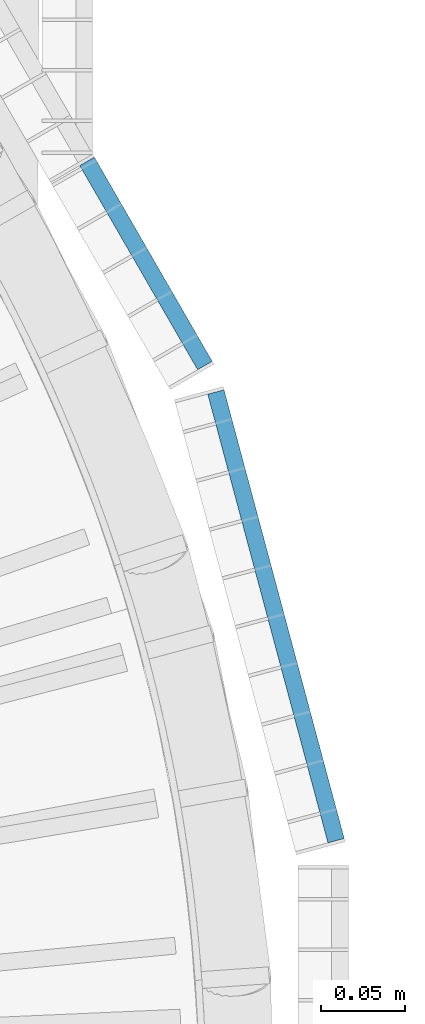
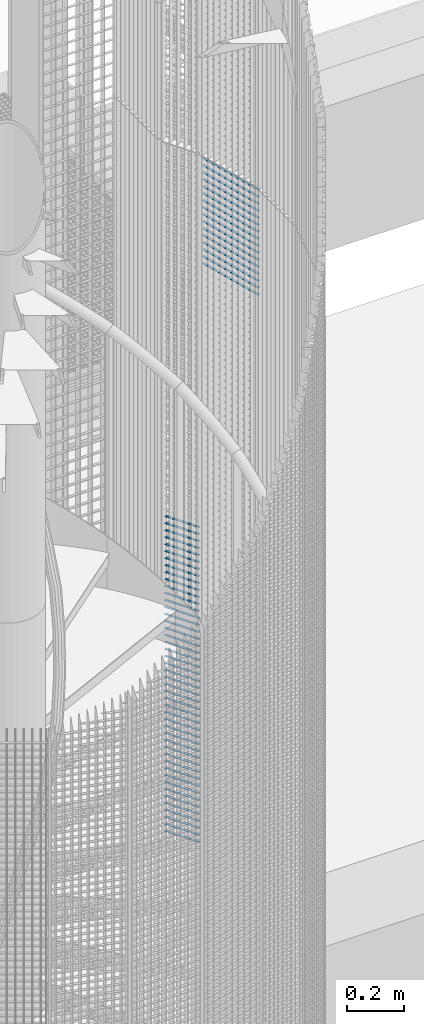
# One storey, part 281 of 1183: 62 beams, 2 elements without a shape of their own.
"""IFC2X3 building model written with IfcOpenShell, lengths in millimetres."""

from ifc_helpers import new_model, si_unit, frame, origin_with_axes, origin_2d_with_axis, place, context, subcontext, project, spatial, rectangle, extrude, material, type_object, element, aggregate, save


model = new_model("IFC2X3")

# Units and contexts
model_context = context("Model", 3, precision=1e-05, world=origin_with_axes())
body_context = subcontext(model_context, "Body", "Model", "MODEL_VIEW")
ifc_project = project(units=[si_unit("LENGTHUNIT", "METRE", prefix="MILLI"), si_unit("AREAUNIT", "SQUARE_METRE"), si_unit("VOLUMEUNIT", "CUBIC_METRE"), si_unit("MASSUNIT", "GRAM", prefix="KILO"), si_unit("TIMEUNIT", "SECOND"), si_unit("PLANEANGLEUNIT", "RADIAN"), si_unit("SOLIDANGLEUNIT", "STERADIAN"), si_unit("THERMODYNAMICTEMPERATUREUNIT", "DEGREE_CELSIUS"), si_unit("LUMINOUSINTENSITYUNIT", "LUMEN")], contexts=[model_context])

# Site, building, storey
site_placement = place(None, origin_with_axes())
site = spatial("IfcSite", under=ifc_project, at=site_placement, Name="Undefined", CompositionType="ELEMENT")
building_placement = place(site_placement, origin_with_axes())
building = spatial("IfcBuilding", under=site, at=building_placement, Name="Undefined", CompositionType="ELEMENT")
storey_placement = place(building_placement, origin_with_axes())
storey = spatial("IfcBuildingStorey", under=building, at=storey_placement, Name="Undefined", CompositionType="ELEMENT", Elevation=0.0)

# Assembly, beams
assembly_1_placement = place(storey_placement, origin_with_axes())
assembly_1 = element("IfcElementAssembly", 1, at=assembly_1_placement, inside=storey, Name="BORDURE", AssemblyPlace="NOTDEFINED", PredefinedType="NOTDEFINED")
ifc_material = material(Name="STEEL/S235JR")
beam_type = type_object("IfcBeamType", Name="PL2*10", PredefinedType="NOTDEFINED")
beam_1_placement = place(assembly_1_placement, frame((1033.29994283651, 437.231999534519, 13380.0), z_axis=(0.866030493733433, 0.499991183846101, 0.0), x_axis=(-0.499991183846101, 0.866030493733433, 0.0)))
beam_1 = element("IfcBeam", 2, at=beam_1_placement, type_object=beam_type, material=ifc_material, Name="ENTRETOISE", context=body_context, shape_type="SweptSolid", body=[
    extrude(rectangle(XDim=2.0, YDim=10.0, at=origin_2d_with_axis()), frame((140.102470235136, 0.0, 0.0), z_axis=(-1.0, 0.0, 0.0), x_axis=(0.0, -1.0, 0.0)), (0.0, 0.0, 1.0), 140.1),
])
beam_2_placement = place(assembly_1_placement, frame((1033.29994283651, 437.231999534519, 13350.0), z_axis=(0.866030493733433, 0.499991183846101, 0.0), x_axis=(-0.499991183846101, 0.866030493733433, 0.0)))
beam_2 = element("IfcBeam", 3, at=beam_2_placement, type_object=beam_type, material=ifc_material, Name="ENTRETOISE", context=body_context, shape_type="SweptSolid", body=[
    extrude(rectangle(XDim=2.0, YDim=10.0, at=origin_2d_with_axis()), frame((140.102470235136, 0.0, 0.0), z_axis=(-1.0, 0.0, 0.0), x_axis=(0.0, -1.0, 0.0)), (0.0, 0.0, 1.0), 140.1),
])
beam_3_placement = place(assembly_1_placement, frame((1033.29994283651, 437.231999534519, 13320.0), z_axis=(0.866030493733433, 0.499991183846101, 0.0), x_axis=(-0.499991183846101, 0.866030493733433, 0.0)))
beam_3 = element("IfcBeam", 4, at=beam_3_placement, type_object=beam_type, material=ifc_material, Name="ENTRETOISE", context=body_context, shape_type="SweptSolid", body=[
    extrude(rectangle(XDim=2.0, YDim=10.0, at=origin_2d_with_axis()), frame((140.102470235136, 0.0, 0.0), z_axis=(-1.0, 0.0, 0.0), x_axis=(0.0, -1.0, 0.0)), (0.0, 0.0, 1.0), 140.1),
])
beam_4_placement = place(assembly_1_placement, frame((1033.29994283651, 437.231999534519, 13290.0), z_axis=(0.866030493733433, 0.499991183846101, 0.0), x_axis=(-0.499991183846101, 0.866030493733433, 0.0)))
beam_4 = element("IfcBeam", 5, at=beam_4_placement, type_object=beam_type, material=ifc_material, Name="ENTRETOISE", context=body_context, shape_type="SweptSolid", body=[
    extrude(rectangle(XDim=2.0, YDim=10.0, at=origin_2d_with_axis()), frame((140.102470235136, 0.0, 0.0), z_axis=(-1.0, 0.0, 0.0), x_axis=(0.0, -1.0, 0.0)), (0.0, 0.0, 1.0), 140.1),
])
beam_5_placement = place(assembly_1_placement, frame((1033.29994283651, 437.231999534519, 13260.0), z_axis=(0.866030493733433, 0.499991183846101, 0.0), x_axis=(-0.499991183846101, 0.866030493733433, 0.0)))
beam_5 = element("IfcBeam", 6, at=beam_5_placement, type_object=beam_type, material=ifc_material, Name="ENTRETOISE", context=body_context, shape_type="SweptSolid", body=[
    extrude(rectangle(XDim=2.0, YDim=10.0, at=origin_2d_with_axis()), frame((140.102470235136, 0.0, 0.0), z_axis=(-1.0, 0.0, 0.0), x_axis=(0.0, -1.0, 0.0)), (0.0, 0.0, 1.0), 140.1),
])
beam_6_placement = place(assembly_1_placement, frame((1033.29994283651, 437.231999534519, 13230.0), z_axis=(0.866030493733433, 0.499991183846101, 0.0), x_axis=(-0.499991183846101, 0.866030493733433, 0.0)))
beam_6 = element("IfcBeam", 7, at=beam_6_placement, type_object=beam_type, material=ifc_material, Name="ENTRETOISE", context=body_context, shape_type="SweptSolid", body=[
    extrude(rectangle(XDim=2.0, YDim=10.0, at=origin_2d_with_axis()), frame((140.102470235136, 0.0, 0.0), z_axis=(-1.0, 0.0, 0.0), x_axis=(0.0, -1.0, 0.0)), (0.0, 0.0, 1.0), 140.1),
])
beam_7_placement = place(assembly_1_placement, frame((1033.29994283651, 437.231999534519, 13200.0), z_axis=(0.866030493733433, 0.499991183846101, 0.0), x_axis=(-0.499991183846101, 0.866030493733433, 0.0)))
beam_7 = element("IfcBeam", 8, at=beam_7_placement, type_object=beam_type, material=ifc_material, Name="ENTRETOISE", context=body_context, shape_type="SweptSolid", body=[
    extrude(rectangle(XDim=2.0, YDim=10.0, at=origin_2d_with_axis()), frame((140.102470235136, 0.0, 0.0), z_axis=(-1.0, 0.0, 0.0), x_axis=(0.0, -1.0, 0.0)), (0.0, 0.0, 1.0), 140.1),
])
beam_8_placement = place(assembly_1_placement, frame((1033.29994283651, 437.23199953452, 13170.0), z_axis=(0.866030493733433, 0.499991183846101, 0.0), x_axis=(-0.499991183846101, 0.866030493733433, 0.0)))
beam_8 = element("IfcBeam", 9, at=beam_8_placement, type_object=beam_type, material=ifc_material, Name="ENTRETOISE", context=body_context, shape_type="SweptSolid", body=[
    extrude(rectangle(XDim=2.0, YDim=10.0, at=origin_2d_with_axis()), frame((140.102470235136, 0.0, 0.0), z_axis=(-1.0, 0.0, 0.0), x_axis=(0.0, -1.0, 0.0)), (0.0, 0.0, 1.0), 140.1),
])
beam_9_placement = place(assembly_1_placement, frame((1033.29994283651, 437.23199953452, 13140.0), z_axis=(0.866030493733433, 0.499991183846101, 0.0), x_axis=(-0.499991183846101, 0.866030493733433, 0.0)))
beam_9 = element("IfcBeam", 10, at=beam_9_placement, type_object=beam_type, material=ifc_material, Name="ENTRETOISE", context=body_context, shape_type="SweptSolid", body=[
    extrude(rectangle(XDim=2.0, YDim=10.0, at=origin_2d_with_axis()), frame((140.102470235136, 0.0, 0.0), z_axis=(-1.0, 0.0, 0.0), x_axis=(0.0, -1.0, 0.0)), (0.0, 0.0, 1.0), 140.1),
])
beam_10_placement = place(assembly_1_placement, frame((1033.29994283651, 437.231999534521, 12720.0), z_axis=(0.866030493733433, 0.499991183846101, 0.0), x_axis=(-0.499991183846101, 0.866030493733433, 0.0)))
beam_10 = element("IfcBeam", 11, at=beam_10_placement, type_object=beam_type, material=ifc_material, Name="ENTRETOISE", context=body_context, shape_type="SweptSolid", body=[
    extrude(rectangle(XDim=2.0, YDim=10.0, at=origin_2d_with_axis()), frame((140.102470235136, 0.0, 0.0), z_axis=(-1.0, 0.0, 0.0), x_axis=(0.0, -1.0, 0.0)), (0.0, 0.0, 1.0), 140.1),
])
beam_11_placement = place(assembly_1_placement, frame((1033.29994283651, 437.231999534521, 12690.0), z_axis=(0.866030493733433, 0.499991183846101, 0.0), x_axis=(-0.499991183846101, 0.866030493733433, 0.0)))
beam_11 = element("IfcBeam", 12, at=beam_11_placement, type_object=beam_type, material=ifc_material, Name="ENTRETOISE", context=body_context, shape_type="SweptSolid", body=[
    extrude(rectangle(XDim=2.0, YDim=10.0, at=origin_2d_with_axis()), frame((140.102470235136, 0.0, 0.0), z_axis=(-1.0, 0.0, 0.0), x_axis=(0.0, -1.0, 0.0)), (0.0, 0.0, 1.0), 140.1),
])
beam_12_placement = place(assembly_1_placement, frame((1033.29994283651, 437.231999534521, 12750.0), z_axis=(0.866030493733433, 0.499991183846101, 0.0), x_axis=(-0.499991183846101, 0.866030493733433, 0.0)))
beam_12 = element("IfcBeam", 13, at=beam_12_placement, type_object=beam_type, material=ifc_material, Name="ENTRETOISE", context=body_context, shape_type="SweptSolid", body=[
    extrude(rectangle(XDim=2.0, YDim=10.0, at=origin_2d_with_axis()), frame((140.102470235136, 0.0, 0.0), z_axis=(-1.0, 0.0, 0.0), x_axis=(0.0, -1.0, 0.0)), (0.0, 0.0, 1.0), 140.1),
])
beam_13_placement = place(assembly_1_placement, frame((1033.29994283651, 437.231999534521, 12660.0), z_axis=(0.866030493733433, 0.499991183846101, 0.0), x_axis=(-0.499991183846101, 0.866030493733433, 0.0)))
beam_13 = element("IfcBeam", 14, at=beam_13_placement, type_object=beam_type, material=ifc_material, Name="ENTRETOISE", context=body_context, shape_type="SweptSolid", body=[
    extrude(rectangle(XDim=2.0, YDim=10.0, at=origin_2d_with_axis()), frame((140.102470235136, 0.0, 0.0), z_axis=(-1.0, 0.0, 0.0), x_axis=(0.0, -1.0, 0.0)), (0.0, 0.0, 1.0), 140.1),
])
beam_14_placement = place(assembly_1_placement, frame((1033.29994283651, 437.231999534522, 12630.0), z_axis=(0.866030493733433, 0.499991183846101, 0.0), x_axis=(-0.499991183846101, 0.866030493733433, 0.0)))
beam_14 = element("IfcBeam", 15, at=beam_14_placement, type_object=beam_type, material=ifc_material, Name="ENTRETOISE", context=body_context, shape_type="SweptSolid", body=[
    extrude(rectangle(XDim=2.0, YDim=10.0, at=origin_2d_with_axis()), frame((140.102470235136, 0.0, 0.0), z_axis=(-1.0, 0.0, 0.0), x_axis=(0.0, -1.0, 0.0)), (0.0, 0.0, 1.0), 140.1),
])
beam_15_placement = place(assembly_1_placement, frame((1033.29994283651, 437.231999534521, 12780.0), z_axis=(0.866030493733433, 0.499991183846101, 0.0), x_axis=(-0.499991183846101, 0.866030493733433, 0.0)))
beam_15 = element("IfcBeam", 16, at=beam_15_placement, type_object=beam_type, material=ifc_material, Name="ENTRETOISE", context=body_context, shape_type="SweptSolid", body=[
    extrude(rectangle(XDim=2.0, YDim=10.0, at=origin_2d_with_axis()), frame((140.102470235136, 0.0, 0.0), z_axis=(-1.0, 0.0, 0.0), x_axis=(0.0, -1.0, 0.0)), (0.0, 0.0, 1.0), 140.1),
])
beam_16_placement = place(assembly_1_placement, frame((1033.29994283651, 437.231999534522, 12600.0), z_axis=(0.866030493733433, 0.499991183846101, 0.0), x_axis=(-0.499991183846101, 0.866030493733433, 0.0)))
beam_16 = element("IfcBeam", 17, at=beam_16_placement, type_object=beam_type, material=ifc_material, Name="ENTRETOISE", context=body_context, shape_type="SweptSolid", body=[
    extrude(rectangle(XDim=2.0, YDim=10.0, at=origin_2d_with_axis()), frame((140.102470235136, 0.0, 0.0), z_axis=(-1.0, 0.0, 0.0), x_axis=(0.0, -1.0, 0.0)), (0.0, 0.0, 1.0), 140.1),
])
beam_17_placement = place(assembly_1_placement, frame((1033.29994283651, 437.231999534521, 12810.0), z_axis=(0.866030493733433, 0.499991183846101, 0.0), x_axis=(-0.499991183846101, 0.866030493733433, 0.0)))
beam_17 = element("IfcBeam", 18, at=beam_17_placement, type_object=beam_type, material=ifc_material, Name="ENTRETOISE", context=body_context, shape_type="SweptSolid", body=[
    extrude(rectangle(XDim=2.0, YDim=10.0, at=origin_2d_with_axis()), frame((140.102470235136, 0.0, 0.0), z_axis=(-1.0, 0.0, 0.0), x_axis=(0.0, -1.0, 0.0)), (0.0, 0.0, 1.0), 140.1),
])
beam_18_placement = place(assembly_1_placement, frame((1033.29994283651, 437.231999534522, 12570.0), z_axis=(0.866030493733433, 0.499991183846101, 0.0), x_axis=(-0.499991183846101, 0.866030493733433, 0.0)))
beam_18 = element("IfcBeam", 19, at=beam_18_placement, type_object=beam_type, material=ifc_material, Name="ENTRETOISE", context=body_context, shape_type="SweptSolid", body=[
    extrude(rectangle(XDim=2.0, YDim=10.0, at=origin_2d_with_axis()), frame((140.102470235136, 0.0, 0.0), z_axis=(-1.0, 0.0, 0.0), x_axis=(0.0, -1.0, 0.0)), (0.0, 0.0, 1.0), 140.1),
])
beam_19_placement = place(assembly_1_placement, frame((1033.29994283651, 437.231999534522, 12540.0), z_axis=(0.866030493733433, 0.499991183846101, 0.0), x_axis=(-0.499991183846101, 0.866030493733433, 0.0)))
beam_19 = element("IfcBeam", 20, at=beam_19_placement, type_object=beam_type, material=ifc_material, Name="ENTRETOISE", context=body_context, shape_type="SweptSolid", body=[
    extrude(rectangle(XDim=2.0, YDim=10.0, at=origin_2d_with_axis()), frame((140.102470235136, 0.0, 0.0), z_axis=(-1.0, 0.0, 0.0), x_axis=(0.0, -1.0, 0.0)), (0.0, 0.0, 1.0), 140.1),
])
beam_20_placement = place(assembly_1_placement, frame((1033.29994283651, 437.231999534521, 12840.0), z_axis=(0.866030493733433, 0.499991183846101, 0.0), x_axis=(-0.499991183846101, 0.866030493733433, 0.0)))
beam_20 = element("IfcBeam", 21, at=beam_20_placement, type_object=beam_type, material=ifc_material, Name="ENTRETOISE", context=body_context, shape_type="SweptSolid", body=[
    extrude(rectangle(XDim=2.0, YDim=10.0, at=origin_2d_with_axis()), frame((140.102470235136, 0.0, 0.0), z_axis=(-1.0, 0.0, 0.0), x_axis=(0.0, -1.0, 0.0)), (0.0, 0.0, 1.0), 140.1),
])
beam_21_placement = place(assembly_1_placement, frame((1033.29994283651, 437.231999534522, 12510.0), z_axis=(0.866030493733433, 0.499991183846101, 0.0), x_axis=(-0.499991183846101, 0.866030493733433, 0.0)))
beam_21 = element("IfcBeam", 22, at=beam_21_placement, type_object=beam_type, material=ifc_material, Name="ENTRETOISE", context=body_context, shape_type="SweptSolid", body=[
    extrude(rectangle(XDim=2.0, YDim=10.0, at=origin_2d_with_axis()), frame((140.102470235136, 0.0, 0.0), z_axis=(-1.0, 0.0, 0.0), x_axis=(0.0, -1.0, 0.0)), (0.0, 0.0, 1.0), 140.1),
])
beam_22_placement = place(assembly_1_placement, frame((1033.29994283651, 437.231999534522, 12480.0), z_axis=(0.866030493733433, 0.499991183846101, 0.0), x_axis=(-0.499991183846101, 0.866030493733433, 0.0)))
beam_22 = element("IfcBeam", 23, at=beam_22_placement, type_object=beam_type, material=ifc_material, Name="ENTRETOISE", context=body_context, shape_type="SweptSolid", body=[
    extrude(rectangle(XDim=2.0, YDim=10.0, at=origin_2d_with_axis()), frame((140.102470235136, 0.0, 0.0), z_axis=(-1.0, 0.0, 0.0), x_axis=(0.0, -1.0, 0.0)), (0.0, 0.0, 1.0), 140.1),
])
beam_23_placement = place(assembly_1_placement, frame((1033.29994283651, 437.231999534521, 12870.0), z_axis=(0.866030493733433, 0.499991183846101, 0.0), x_axis=(-0.499991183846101, 0.866030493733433, 0.0)))
beam_23 = element("IfcBeam", 24, at=beam_23_placement, type_object=beam_type, material=ifc_material, Name="ENTRETOISE", context=body_context, shape_type="SweptSolid", body=[
    extrude(rectangle(XDim=2.0, YDim=10.0, at=origin_2d_with_axis()), frame((140.102470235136, 0.0, 0.0), z_axis=(-1.0, 0.0, 0.0), x_axis=(0.0, -1.0, 0.0)), (0.0, 0.0, 1.0), 140.1),
])
beam_24_placement = place(assembly_1_placement, frame((1033.29994283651, 437.231999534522, 12450.0), z_axis=(0.866030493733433, 0.499991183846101, 0.0), x_axis=(-0.499991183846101, 0.866030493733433, 0.0)))
beam_24 = element("IfcBeam", 25, at=beam_24_placement, type_object=beam_type, material=ifc_material, Name="ENTRETOISE", context=body_context, shape_type="SweptSolid", body=[
    extrude(rectangle(XDim=2.0, YDim=10.0, at=origin_2d_with_axis()), frame((140.102470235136, 0.0, 0.0), z_axis=(-1.0, 0.0, 0.0), x_axis=(0.0, -1.0, 0.0)), (0.0, 0.0, 1.0), 140.1),
])
beam_25_placement = place(assembly_1_placement, frame((1033.29994283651, 437.231999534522, 12420.0), z_axis=(0.866030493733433, 0.499991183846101, 0.0), x_axis=(-0.499991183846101, 0.866030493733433, 0.0)))
beam_25 = element("IfcBeam", 26, at=beam_25_placement, type_object=beam_type, material=ifc_material, Name="ENTRETOISE", context=body_context, shape_type="SweptSolid", body=[
    extrude(rectangle(XDim=2.0, YDim=10.0, at=origin_2d_with_axis()), frame((140.102470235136, 0.0, 0.0), z_axis=(-1.0, 0.0, 0.0), x_axis=(0.0, -1.0, 0.0)), (0.0, 0.0, 1.0), 140.1),
])
beam_26_placement = place(assembly_1_placement, frame((1033.29994283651, 437.231999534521, 12900.0), z_axis=(0.866030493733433, 0.499991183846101, 0.0), x_axis=(-0.499991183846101, 0.866030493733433, 0.0)))
beam_26 = element("IfcBeam", 27, at=beam_26_placement, type_object=beam_type, material=ifc_material, Name="ENTRETOISE", context=body_context, shape_type="SweptSolid", body=[
    extrude(rectangle(XDim=2.0, YDim=10.0, at=origin_2d_with_axis()), frame((140.102470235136, 0.0, 0.0), z_axis=(-1.0, 0.0, 0.0), x_axis=(0.0, -1.0, 0.0)), (0.0, 0.0, 1.0), 140.1),
])
beam_27_placement = place(assembly_1_placement, frame((1033.29994283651, 437.231999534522, 12390.0), z_axis=(0.866030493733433, 0.499991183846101, 0.0), x_axis=(-0.499991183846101, 0.866030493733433, 0.0)))
beam_27 = element("IfcBeam", 28, at=beam_27_placement, type_object=beam_type, material=ifc_material, Name="ENTRETOISE", context=body_context, shape_type="SweptSolid", body=[
    extrude(rectangle(XDim=2.0, YDim=10.0, at=origin_2d_with_axis()), frame((140.102470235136, 0.0, 0.0), z_axis=(-1.0, 0.0, 0.0), x_axis=(0.0, -1.0, 0.0)), (0.0, 0.0, 1.0), 140.1),
])
beam_28_placement = place(assembly_1_placement, frame((1033.29994283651, 437.23199953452, 12930.0), z_axis=(0.866030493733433, 0.499991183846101, 0.0), x_axis=(-0.499991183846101, 0.866030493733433, 0.0)))
beam_28 = element("IfcBeam", 29, at=beam_28_placement, type_object=beam_type, material=ifc_material, Name="ENTRETOISE", context=body_context, shape_type="SweptSolid", body=[
    extrude(rectangle(XDim=2.0, YDim=10.0, at=origin_2d_with_axis()), frame((140.102470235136, 0.0, 0.0), z_axis=(-1.0, 0.0, 0.0), x_axis=(0.0, -1.0, 0.0)), (0.0, 0.0, 1.0), 140.1),
])
beam_29_placement = place(assembly_1_placement, frame((1033.29994283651, 437.231999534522, 12360.0), z_axis=(0.866030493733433, 0.499991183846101, 0.0), x_axis=(-0.499991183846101, 0.866030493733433, 0.0)))
beam_29 = element("IfcBeam", 30, at=beam_29_placement, type_object=beam_type, material=ifc_material, Name="ENTRETOISE", context=body_context, shape_type="SweptSolid", body=[
    extrude(rectangle(XDim=2.0, YDim=10.0, at=origin_2d_with_axis()), frame((140.102470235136, 0.0, 0.0), z_axis=(-1.0, 0.0, 0.0), x_axis=(0.0, -1.0, 0.0)), (0.0, 0.0, 1.0), 140.1),
])
beam_30_placement = place(assembly_1_placement, frame((1033.29994283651, 437.231999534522, 12330.0), z_axis=(0.866030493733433, 0.499991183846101, 0.0), x_axis=(-0.499991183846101, 0.866030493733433, 0.0)))
beam_30 = element("IfcBeam", 31, at=beam_30_placement, type_object=beam_type, material=ifc_material, Name="ENTRETOISE", context=body_context, shape_type="SweptSolid", body=[
    extrude(rectangle(XDim=2.0, YDim=10.0, at=origin_2d_with_axis()), frame((140.102470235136, 0.0, 0.0), z_axis=(-1.0, 0.0, 0.0), x_axis=(0.0, -1.0, 0.0)), (0.0, 0.0, 1.0), 140.1),
])
beam_31_placement = place(assembly_1_placement, frame((1033.29994283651, 437.23199953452, 12960.0), z_axis=(0.866030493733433, 0.499991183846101, 0.0), x_axis=(-0.499991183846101, 0.866030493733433, 0.0)))
beam_31 = element("IfcBeam", 32, at=beam_31_placement, type_object=beam_type, material=ifc_material, Name="ENTRETOISE", context=body_context, shape_type="SweptSolid", body=[
    extrude(rectangle(XDim=2.0, YDim=10.0, at=origin_2d_with_axis()), frame((140.102470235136, 0.0, 0.0), z_axis=(-1.0, 0.0, 0.0), x_axis=(0.0, -1.0, 0.0)), (0.0, 0.0, 1.0), 140.1),
])
beam_32_placement = place(assembly_1_placement, frame((1033.29994283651, 437.231999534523, 12300.0), z_axis=(0.866030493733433, 0.499991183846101, 0.0), x_axis=(-0.499991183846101, 0.866030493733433, 0.0)))
beam_32 = element("IfcBeam", 33, at=beam_32_placement, type_object=beam_type, material=ifc_material, Name="ENTRETOISE", context=body_context, shape_type="SweptSolid", body=[
    extrude(rectangle(XDim=2.0, YDim=10.0, at=origin_2d_with_axis()), frame((140.102470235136, 0.0, 0.0), z_axis=(-1.0, 0.0, 0.0), x_axis=(0.0, -1.0, 0.0)), (0.0, 0.0, 1.0), 140.1),
])
beam_33_placement = place(assembly_1_placement, frame((1033.29994283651, 437.231999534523, 12270.0), z_axis=(0.866030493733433, 0.499991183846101, 0.0), x_axis=(-0.499991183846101, 0.866030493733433, 0.0)))
beam_33 = element("IfcBeam", 34, at=beam_33_placement, type_object=beam_type, material=ifc_material, Name="ENTRETOISE", context=body_context, shape_type="SweptSolid", body=[
    extrude(rectangle(XDim=2.0, YDim=10.0, at=origin_2d_with_axis()), frame((140.102470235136, 0.0, 0.0), z_axis=(-1.0, 0.0, 0.0), x_axis=(0.0, -1.0, 0.0)), (0.0, 0.0, 1.0), 140.1),
])
beam_34_placement = place(assembly_1_placement, frame((1033.29994283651, 437.23199953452, 12990.0), z_axis=(0.866030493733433, 0.499991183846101, 0.0), x_axis=(-0.499991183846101, 0.866030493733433, 0.0)))
beam_34 = element("IfcBeam", 35, at=beam_34_placement, type_object=beam_type, material=ifc_material, Name="ENTRETOISE", context=body_context, shape_type="SweptSolid", body=[
    extrude(rectangle(XDim=2.0, YDim=10.0, at=origin_2d_with_axis()), frame((140.102470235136, 0.0, 0.0), z_axis=(-1.0, 0.0, 0.0), x_axis=(0.0, -1.0, 0.0)), (0.0, 0.0, 1.0), 140.1),
])
beam_35_placement = place(assembly_1_placement, frame((1033.29994283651, 437.231999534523, 12240.0), z_axis=(0.866030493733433, 0.499991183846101, 0.0), x_axis=(-0.499991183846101, 0.866030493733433, 0.0)))
beam_35 = element("IfcBeam", 36, at=beam_35_placement, type_object=beam_type, material=ifc_material, Name="ENTRETOISE", context=body_context, shape_type="SweptSolid", body=[
    extrude(rectangle(XDim=2.0, YDim=10.0, at=origin_2d_with_axis()), frame((140.102470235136, 0.0, 0.0), z_axis=(-1.0, 0.0, 0.0), x_axis=(0.0, -1.0, 0.0)), (0.0, 0.0, 1.0), 140.1),
])
beam_36_placement = place(assembly_1_placement, frame((1033.29994283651, 437.23199953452, 13020.0), z_axis=(0.866030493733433, 0.499991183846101, 0.0), x_axis=(-0.499991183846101, 0.866030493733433, 0.0)))
beam_36 = element("IfcBeam", 37, at=beam_36_placement, type_object=beam_type, material=ifc_material, Name="ENTRETOISE", context=body_context, shape_type="SweptSolid", body=[
    extrude(rectangle(XDim=2.0, YDim=10.0, at=origin_2d_with_axis()), frame((140.102470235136, 0.0, 0.0), z_axis=(-1.0, 0.0, 0.0), x_axis=(0.0, -1.0, 0.0)), (0.0, 0.0, 1.0), 140.1),
])
beam_37_placement = place(assembly_1_placement, frame((1033.29994283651, 437.231999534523, 12210.0), z_axis=(0.866030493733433, 0.499991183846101, 0.0), x_axis=(-0.499991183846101, 0.866030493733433, 0.0)))
beam_37 = element("IfcBeam", 38, at=beam_37_placement, type_object=beam_type, material=ifc_material, Name="ENTRETOISE", context=body_context, shape_type="SweptSolid", body=[
    extrude(rectangle(XDim=2.0, YDim=10.0, at=origin_2d_with_axis()), frame((140.102470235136, 0.0, 0.0), z_axis=(-1.0, 0.0, 0.0), x_axis=(0.0, -1.0, 0.0)), (0.0, 0.0, 1.0), 140.1),
])
beam_38_placement = place(assembly_1_placement, frame((1033.29994283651, 437.231999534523, 12180.0), z_axis=(0.866030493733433, 0.499991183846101, 0.0), x_axis=(-0.499991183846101, 0.866030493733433, 0.0)))
beam_38 = element("IfcBeam", 39, at=beam_38_placement, type_object=beam_type, material=ifc_material, Name="ENTRETOISE", context=body_context, shape_type="SweptSolid", body=[
    extrude(rectangle(XDim=2.0, YDim=10.0, at=origin_2d_with_axis()), frame((140.102470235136, 0.0, 0.0), z_axis=(-1.0, 0.0, 0.0), x_axis=(0.0, -1.0, 0.0)), (0.0, 0.0, 1.0), 140.1),
])
beam_39_placement = place(assembly_1_placement, frame((1033.29994283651, 437.23199953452, 13050.0), z_axis=(0.866030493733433, 0.499991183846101, 0.0), x_axis=(-0.499991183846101, 0.866030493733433, 0.0)))
beam_39 = element("IfcBeam", 40, at=beam_39_placement, type_object=beam_type, material=ifc_material, Name="ENTRETOISE", context=body_context, shape_type="SweptSolid", body=[
    extrude(rectangle(XDim=2.0, YDim=10.0, at=origin_2d_with_axis()), frame((140.102470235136, 0.0, 0.0), z_axis=(-1.0, 0.0, 0.0), x_axis=(0.0, -1.0, 0.0)), (0.0, 0.0, 1.0), 140.1),
])
beam_40_placement = place(assembly_1_placement, frame((1033.29994283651, 437.231999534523, 12150.0), z_axis=(0.866030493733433, 0.499991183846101, 0.0), x_axis=(-0.499991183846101, 0.866030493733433, 0.0)))
beam_40 = element("IfcBeam", 41, at=beam_40_placement, type_object=beam_type, material=ifc_material, Name="ENTRETOISE", context=body_context, shape_type="SweptSolid", body=[
    extrude(rectangle(XDim=2.0, YDim=10.0, at=origin_2d_with_axis()), frame((140.102470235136, 0.0, 0.0), z_axis=(-1.0, 0.0, 0.0), x_axis=(0.0, -1.0, 0.0)), (0.0, 0.0, 1.0), 140.1),
])
beam_41_placement = place(assembly_1_placement, frame((1033.29994283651, 437.231999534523, 12120.0), z_axis=(0.866030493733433, 0.499991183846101, 0.0), x_axis=(-0.499991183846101, 0.866030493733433, 0.0)))
beam_41 = element("IfcBeam", 42, at=beam_41_placement, type_object=beam_type, material=ifc_material, Name="ENTRETOISE", context=body_context, shape_type="SweptSolid", body=[
    extrude(rectangle(XDim=2.0, YDim=10.0, at=origin_2d_with_axis()), frame((140.102470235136, 0.0, 0.0), z_axis=(-1.0, 0.0, 0.0), x_axis=(0.0, -1.0, 0.0)), (0.0, 0.0, 1.0), 140.1),
])
beam_42_placement = place(assembly_1_placement, frame((1033.29994283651, 437.23199953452, 13080.0), z_axis=(0.866030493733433, 0.499991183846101, 0.0), x_axis=(-0.499991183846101, 0.866030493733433, 0.0)))
beam_42 = element("IfcBeam", 43, at=beam_42_placement, type_object=beam_type, material=ifc_material, Name="ENTRETOISE", context=body_context, shape_type="SweptSolid", body=[
    extrude(rectangle(XDim=2.0, YDim=10.0, at=origin_2d_with_axis()), frame((140.102470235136, 0.0, 0.0), z_axis=(-1.0, 0.0, 0.0), x_axis=(0.0, -1.0, 0.0)), (0.0, 0.0, 1.0), 140.1),
])
beam_43_placement = place(assembly_1_placement, frame((1033.29994283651, 437.231999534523, 12090.0), z_axis=(0.866030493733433, 0.499991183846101, 0.0), x_axis=(-0.499991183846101, 0.866030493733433, 0.0)))
beam_43 = element("IfcBeam", 44, at=beam_43_placement, type_object=beam_type, material=ifc_material, Name="ENTRETOISE", context=body_context, shape_type="SweptSolid", body=[
    extrude(rectangle(XDim=2.0, YDim=10.0, at=origin_2d_with_axis()), frame((140.102470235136, 0.0, 0.0), z_axis=(-1.0, 0.0, 0.0), x_axis=(0.0, -1.0, 0.0)), (0.0, 0.0, 1.0), 140.1),
])
beam_44_placement = place(assembly_1_placement, frame((1033.2999428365, 437.231999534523, 12060.0), z_axis=(0.866030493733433, 0.499991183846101, 0.0), x_axis=(-0.499991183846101, 0.866030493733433, 0.0)))
beam_44 = element("IfcBeam", 45, at=beam_44_placement, type_object=beam_type, material=ifc_material, Name="ENTRETOISE", context=body_context, shape_type="SweptSolid", body=[
    extrude(rectangle(XDim=2.0, YDim=10.0, at=origin_2d_with_axis()), frame((140.102470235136, 0.0, 0.0), z_axis=(-1.0, 0.0, 0.0), x_axis=(0.0, -1.0, 0.0)), (0.0, 0.0, 1.0), 140.1),
])
beam_45_placement = place(assembly_1_placement, frame((1033.29994283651, 437.23199953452, 13110.0), z_axis=(0.866030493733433, 0.499991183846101, 0.0), x_axis=(-0.499991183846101, 0.866030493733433, 0.0)))
beam_45 = element("IfcBeam", 46, at=beam_45_placement, type_object=beam_type, material=ifc_material, Name="ENTRETOISE", context=body_context, shape_type="SweptSolid", body=[
    extrude(rectangle(XDim=2.0, YDim=10.0, at=origin_2d_with_axis()), frame((140.102470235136, 0.0, 0.0), z_axis=(-1.0, 0.0, 0.0), x_axis=(0.0, -1.0, 0.0)), (0.0, 0.0, 1.0), 140.1),
])
beam_46_placement = place(assembly_1_placement, frame((1033.2999428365, 437.231999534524, 12030.0), z_axis=(0.866030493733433, 0.499991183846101, 0.0), x_axis=(-0.499991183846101, 0.866030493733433, 0.0)))
beam_46 = element("IfcBeam", 47, at=beam_46_placement, type_object=beam_type, material=ifc_material, Name="ENTRETOISE", context=body_context, shape_type="SweptSolid", body=[
    extrude(rectangle(XDim=2.0, YDim=10.0, at=origin_2d_with_axis()), frame((140.102470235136, 0.0, 0.0), z_axis=(-1.0, 0.0, 0.0), x_axis=(0.0, -1.0, 0.0)), (0.0, 0.0, 1.0), 140.1),
])
aggregate(assembly_1, [beam_1, beam_2, beam_3, beam_4, beam_5, beam_6, beam_7, beam_8, beam_9, beam_10, beam_11, beam_12, beam_13, beam_14, beam_15, beam_16, beam_17, beam_18, beam_19, beam_20, beam_21, beam_22, beam_23, beam_24, beam_25, beam_26, beam_27, beam_28, beam_29, beam_30, beam_31, beam_32, beam_33, beam_34, beam_35, beam_36, beam_37, beam_38, beam_39, beam_40, beam_41, beam_42, beam_43, beam_44, beam_45, beam_46])

assembly_2_placement = place(storey_placement, origin_with_axes())
assembly_2 = element("IfcElementAssembly", 48, at=assembly_2_placement, inside=storey, Name="BORDURE", AssemblyPlace="NOTDEFINED", PredefinedType="NOTDEFINED")
beam_47_placement = place(assembly_2_placement, frame((1111.25508286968, 154.895926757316, 14970.0), z_axis=(0.965925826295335, 0.258819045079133, 0.0), x_axis=(-0.258819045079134, 0.965925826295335, 0.0)))
beam_47 = element("IfcBeam", 49, at=beam_47_placement, type_object=beam_type, material=ifc_material, Name="ENTRETOISE", context=body_context, shape_type="SweptSolid", body=[
    extrude(rectangle(XDim=2.0, YDim=10.0, at=origin_2d_with_axis()), frame((275.999999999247, 9.09494701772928e-13, 1.53210777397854e-14), z_axis=(-1.0, 0.0, 0.0), x_axis=(0.0, -1.0, 0.0)), (0.0, 0.0, 1.0), 276.0),
])
beam_48_placement = place(assembly_2_placement, frame((1111.25508286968, 154.895926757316, 14940.0), z_axis=(0.965925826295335, 0.258819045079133, 0.0), x_axis=(-0.258819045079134, 0.965925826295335, 0.0)))
beam_48 = element("IfcBeam", 50, at=beam_48_placement, type_object=beam_type, material=ifc_material, Name="ENTRETOISE", context=body_context, shape_type="SweptSolid", body=[
    extrude(rectangle(XDim=2.0, YDim=10.0, at=origin_2d_with_axis()), frame((275.999999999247, 9.09494701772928e-13, 1.53210777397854e-14), z_axis=(-1.0, 0.0, 0.0), x_axis=(0.0, -1.0, 0.0)), (0.0, 0.0, 1.0), 276.0),
])
beam_49_placement = place(assembly_2_placement, frame((1111.25508286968, 154.895926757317, 14910.0), z_axis=(0.965925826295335, 0.258819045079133, 0.0), x_axis=(-0.258819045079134, 0.965925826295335, 0.0)))
beam_49 = element("IfcBeam", 51, at=beam_49_placement, type_object=beam_type, material=ifc_material, Name="ENTRETOISE", context=body_context, shape_type="SweptSolid", body=[
    extrude(rectangle(XDim=2.0, YDim=10.0, at=origin_2d_with_axis()), frame((275.999999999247, 9.09494701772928e-13, 1.53210777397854e-14), z_axis=(-1.0, 0.0, 0.0), x_axis=(0.0, -1.0, 0.0)), (0.0, 0.0, 1.0), 276.0),
])
beam_50_placement = place(assembly_2_placement, frame((1111.25508286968, 154.895926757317, 14880.0), z_axis=(0.965925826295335, 0.258819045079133, 0.0), x_axis=(-0.258819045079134, 0.965925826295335, 0.0)))
beam_50 = element("IfcBeam", 52, at=beam_50_placement, type_object=beam_type, material=ifc_material, Name="ENTRETOISE", context=body_context, shape_type="SweptSolid", body=[
    extrude(rectangle(XDim=2.0, YDim=10.0, at=origin_2d_with_axis()), frame((275.999999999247, 9.09494701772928e-13, 1.53210777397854e-14), z_axis=(-1.0, 0.0, 0.0), x_axis=(0.0, -1.0, 0.0)), (0.0, 0.0, 1.0), 276.0),
])
beam_51_placement = place(assembly_2_placement, frame((1111.25508286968, 154.895926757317, 14850.0), z_axis=(0.965925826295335, 0.258819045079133, 0.0), x_axis=(-0.258819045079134, 0.965925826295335, 0.0)))
beam_51 = element("IfcBeam", 53, at=beam_51_placement, type_object=beam_type, material=ifc_material, Name="ENTRETOISE", context=body_context, shape_type="SweptSolid", body=[
    extrude(rectangle(XDim=2.0, YDim=10.0, at=origin_2d_with_axis()), frame((275.999999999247, 9.09494701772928e-13, 1.53210777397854e-14), z_axis=(-1.0, 0.0, 0.0), x_axis=(0.0, -1.0, 0.0)), (0.0, 0.0, 1.0), 276.0),
])
beam_52_placement = place(assembly_2_placement, frame((1111.25508286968, 154.895926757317, 14820.0), z_axis=(0.965925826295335, 0.258819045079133, 0.0), x_axis=(-0.258819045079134, 0.965925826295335, 0.0)))
beam_52 = element("IfcBeam", 54, at=beam_52_placement, type_object=beam_type, material=ifc_material, Name="ENTRETOISE", context=body_context, shape_type="SweptSolid", body=[
    extrude(rectangle(XDim=2.0, YDim=10.0, at=origin_2d_with_axis()), frame((275.999999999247, 9.09494701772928e-13, 1.53210777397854e-14), z_axis=(-1.0, 0.0, 0.0), x_axis=(0.0, -1.0, 0.0)), (0.0, 0.0, 1.0), 276.0),
])
beam_53_placement = place(assembly_2_placement, frame((1111.25508286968, 154.895926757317, 14790.0), z_axis=(0.965925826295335, 0.258819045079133, 0.0), x_axis=(-0.258819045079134, 0.965925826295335, 0.0)))
beam_53 = element("IfcBeam", 55, at=beam_53_placement, type_object=beam_type, material=ifc_material, Name="ENTRETOISE", context=body_context, shape_type="SweptSolid", body=[
    extrude(rectangle(XDim=2.0, YDim=10.0, at=origin_2d_with_axis()), frame((275.999999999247, 9.09494701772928e-13, 1.53210777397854e-14), z_axis=(-1.0, 0.0, 0.0), x_axis=(0.0, -1.0, 0.0)), (0.0, 0.0, 1.0), 276.0),
])
beam_54_placement = place(assembly_2_placement, frame((1111.25508286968, 154.895926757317, 14760.0), z_axis=(0.965925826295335, 0.258819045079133, 0.0), x_axis=(-0.258819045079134, 0.965925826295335, 0.0)))
beam_54 = element("IfcBeam", 56, at=beam_54_placement, type_object=beam_type, material=ifc_material, Name="ENTRETOISE", context=body_context, shape_type="SweptSolid", body=[
    extrude(rectangle(XDim=2.0, YDim=10.0, at=origin_2d_with_axis()), frame((275.999999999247, 9.09494701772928e-13, 1.53210777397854e-14), z_axis=(-1.0, 0.0, 0.0), x_axis=(0.0, -1.0, 0.0)), (0.0, 0.0, 1.0), 276.0),
])
beam_55_placement = place(assembly_2_placement, frame((1111.25508286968, 154.895926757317, 14730.0), z_axis=(0.965925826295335, 0.258819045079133, 0.0), x_axis=(-0.258819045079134, 0.965925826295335, 0.0)))
beam_55 = element("IfcBeam", 57, at=beam_55_placement, type_object=beam_type, material=ifc_material, Name="ENTRETOISE", context=body_context, shape_type="SweptSolid", body=[
    extrude(rectangle(XDim=2.0, YDim=10.0, at=origin_2d_with_axis()), frame((275.999999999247, 9.09494701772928e-13, 1.53210777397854e-14), z_axis=(-1.0, 0.0, 0.0), x_axis=(0.0, -1.0, 0.0)), (0.0, 0.0, 1.0), 276.0),
])
beam_56_placement = place(assembly_2_placement, frame((1111.25508286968, 154.895926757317, 14700.0), z_axis=(0.965925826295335, 0.258819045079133, 0.0), x_axis=(-0.258819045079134, 0.965925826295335, 0.0)))
beam_56 = element("IfcBeam", 58, at=beam_56_placement, type_object=beam_type, material=ifc_material, Name="ENTRETOISE", context=body_context, shape_type="SweptSolid", body=[
    extrude(rectangle(XDim=2.0, YDim=10.0, at=origin_2d_with_axis()), frame((275.999999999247, 9.09494701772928e-13, 1.53210777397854e-14), z_axis=(-1.0, 0.0, 0.0), x_axis=(0.0, -1.0, 0.0)), (0.0, 0.0, 1.0), 276.0),
])
beam_57_placement = place(assembly_2_placement, frame((1111.25508286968, 154.895926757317, 14670.0), z_axis=(0.965925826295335, 0.258819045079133, 0.0), x_axis=(-0.258819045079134, 0.965925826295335, 0.0)))
beam_57 = element("IfcBeam", 59, at=beam_57_placement, type_object=beam_type, material=ifc_material, Name="ENTRETOISE", context=body_context, shape_type="SweptSolid", body=[
    extrude(rectangle(XDim=2.0, YDim=10.0, at=origin_2d_with_axis()), frame((275.999999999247, 9.09494701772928e-13, 1.53210777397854e-14), z_axis=(-1.0, 0.0, 0.0), x_axis=(0.0, -1.0, 0.0)), (0.0, 0.0, 1.0), 276.0),
])
beam_58_placement = place(assembly_2_placement, frame((1111.25508286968, 154.895926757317, 14640.0), z_axis=(0.965925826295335, 0.258819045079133, 0.0), x_axis=(-0.258819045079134, 0.965925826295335, 0.0)))
beam_58 = element("IfcBeam", 60, at=beam_58_placement, type_object=beam_type, material=ifc_material, Name="ENTRETOISE", context=body_context, shape_type="SweptSolid", body=[
    extrude(rectangle(XDim=2.0, YDim=10.0, at=origin_2d_with_axis()), frame((275.999999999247, 9.09494701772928e-13, 1.53210777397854e-14), z_axis=(-1.0, 0.0, 0.0), x_axis=(0.0, -1.0, 0.0)), (0.0, 0.0, 1.0), 276.0),
])
beam_59_placement = place(assembly_2_placement, frame((1111.25508286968, 154.895926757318, 14610.0), z_axis=(0.965925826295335, 0.258819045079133, 0.0), x_axis=(-0.258819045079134, 0.965925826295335, 0.0)))
beam_59 = element("IfcBeam", 61, at=beam_59_placement, type_object=beam_type, material=ifc_material, Name="ENTRETOISE", context=body_context, shape_type="SweptSolid", body=[
    extrude(rectangle(XDim=2.0, YDim=10.0, at=origin_2d_with_axis()), frame((275.999999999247, 9.09494701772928e-13, 1.53210777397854e-14), z_axis=(-1.0, 0.0, 0.0), x_axis=(0.0, -1.0, 0.0)), (0.0, 0.0, 1.0), 276.0),
])
beam_60_placement = place(assembly_2_placement, frame((1111.25508286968, 154.895926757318, 14580.0), z_axis=(0.965925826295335, 0.258819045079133, 0.0), x_axis=(-0.258819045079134, 0.965925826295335, 0.0)))
beam_60 = element("IfcBeam", 62, at=beam_60_placement, type_object=beam_type, material=ifc_material, Name="ENTRETOISE", context=body_context, shape_type="SweptSolid", body=[
    extrude(rectangle(XDim=2.0, YDim=10.0, at=origin_2d_with_axis()), frame((275.999999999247, 9.09494701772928e-13, 1.53210777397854e-14), z_axis=(-1.0, 0.0, 0.0), x_axis=(0.0, -1.0, 0.0)), (0.0, 0.0, 1.0), 276.0),
])
beam_61_placement = place(assembly_2_placement, frame((1111.25508286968, 154.895926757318, 14550.0), z_axis=(0.965925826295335, 0.258819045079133, 0.0), x_axis=(-0.258819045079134, 0.965925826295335, 0.0)))
beam_61 = element("IfcBeam", 63, at=beam_61_placement, type_object=beam_type, material=ifc_material, Name="ENTRETOISE", context=body_context, shape_type="SweptSolid", body=[
    extrude(rectangle(XDim=2.0, YDim=10.0, at=origin_2d_with_axis()), frame((275.999999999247, 9.09494701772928e-13, 1.53210777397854e-14), z_axis=(-1.0, 0.0, 0.0), x_axis=(0.0, -1.0, 0.0)), (0.0, 0.0, 1.0), 276.0),
])
beam_62_placement = place(assembly_2_placement, frame((1111.25508286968, 154.895926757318, 14520.0), z_axis=(0.965925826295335, 0.258819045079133, 0.0), x_axis=(-0.258819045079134, 0.965925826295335, 0.0)))
beam_62 = element("IfcBeam", 64, at=beam_62_placement, type_object=beam_type, material=ifc_material, Name="ENTRETOISE", context=body_context, shape_type="SweptSolid", body=[
    extrude(rectangle(XDim=2.0, YDim=10.0, at=origin_2d_with_axis()), frame((275.999999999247, 9.09494701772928e-13, 1.53210777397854e-14), z_axis=(-1.0, 0.0, 0.0), x_axis=(0.0, -1.0, 0.0)), (0.0, 0.0, 1.0), 276.0),
])
aggregate(assembly_2, [beam_47, beam_48, beam_49, beam_50, beam_51, beam_52, beam_53, beam_54, beam_55, beam_56, beam_57, beam_58, beam_59, beam_60, beam_61, beam_62])

save(model, "model.ifc")
